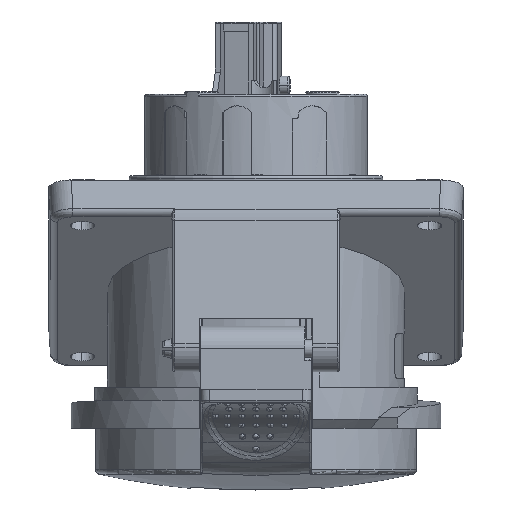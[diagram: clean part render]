
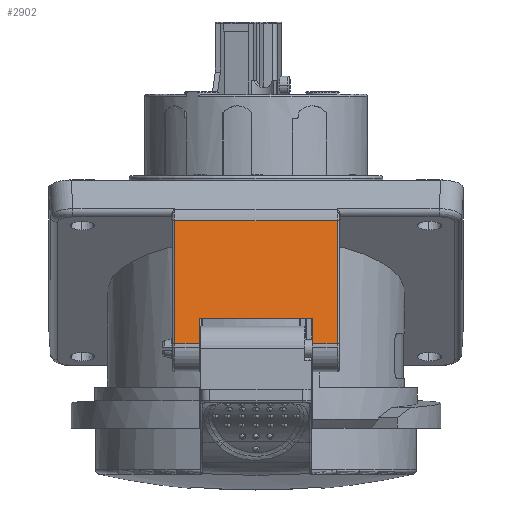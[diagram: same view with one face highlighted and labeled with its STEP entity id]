
A CAD part, front view. The second image highlights one B-rep face of the part: STEP entity #2902.
In plain terms, the highlighted planar face has unit normal (0, -0.991, 0.131).
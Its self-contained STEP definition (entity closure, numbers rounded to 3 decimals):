
#382 = VERTEX_POINT ( 'NONE', #36819 ) ;
#985 = VERTEX_POINT ( 'NONE', #14050 ) ;
#1243 = DIRECTION ( 'NONE',  ( 0., -0.131, -0.991 ) ) ;
#2452 = EDGE_CURVE ( 'NONE', #20216, #35127, #22411, .T. ) ;
#2902 = ADVANCED_FACE ( 'NONE', ( #27150 ), #14303, .T. ) ;
#3723 = LINE ( 'NONE', #48132, #47861 ) ;
#3793 = CARTESIAN_POINT ( 'NONE',  ( 214., 552.485, -12.255 ) ) ;
#4428 = LINE ( 'NONE', #45349, #46788 ) ;
#5514 = DIRECTION ( 'NONE',  ( 0., -0.991, 0.131 ) ) ;
#6163 = CARTESIAN_POINT ( 'NONE',  ( 209.19, 553.235, -6.583 ) ) ;
#6254 = VERTEX_POINT ( 'NONE', #19997 ) ;
#7869 = ORIENTED_EDGE ( 'NONE', *, *, #51815, .F. ) ;
#8626 = DIRECTION ( 'NONE',  ( 0., 0.131, 0.991 ) ) ;
#9840 = CARTESIAN_POINT ( 'NONE',  ( 178., 556.27, 16.37 ) ) ;
#9986 = CARTESIAN_POINT ( 'NONE',  ( 11., 552.485, -12.255 ) ) ;
#10367 = CARTESIAN_POINT ( 'NONE',  ( 178., 556.1, 15.087 ) ) ;
#12274 = VERTEX_POINT ( 'NONE', #52512 ) ;
#12533 = ORIENTED_EDGE ( 'NONE', *, *, #29301, .T. ) ;
#14050 = CARTESIAN_POINT ( 'NONE',  ( 183.4, 552.485, -12.255 ) ) ;
#14303 = PLANE ( 'NONE',  #39243 ) ;
#15746 = VERTEX_POINT ( 'NONE', #45285 ) ;
#16739 = EDGE_CURVE ( 'NONE', #35127, #985, #3723, .T. ) ;
#19818 = EDGE_CURVE ( 'NONE', #15746, #12274, #26485, .T. ) ;
#19997 = CARTESIAN_POINT ( 'NONE',  ( 214., 556.1, 15.087 ) ) ;
#20176 = ORIENTED_EDGE ( 'NONE', *, *, #19818, .F. ) ;
#20216 = VERTEX_POINT ( 'NONE', #10367 ) ;
#21171 = CARTESIAN_POINT ( 'NONE',  ( 214., 556.27, 16.37 ) ) ;
#22411 = LINE ( 'NONE', #9840, #25796 ) ;
#23361 = ORIENTED_EDGE ( 'NONE', *, *, #45655, .F. ) ;
#25576 = LINE ( 'NONE', #29580, #46419 ) ;
#25796 = VECTOR ( 'NONE', #30433, 1000. ) ;
#26485 = LINE ( 'NONE', #6163, #28110 ) ;
#26545 = EDGE_LOOP ( 'NONE', ( #12533, #41961, #50909, #7869, #20176, #23361, #38744, #27555 ) ) ;
#27150 = FACE_OUTER_BOUND ( 'NONE', #26545, .T. ) ;
#27272 = DIRECTION ( 'NONE',  ( -1., 0., 0. ) ) ;
#27555 = ORIENTED_EDGE ( 'NONE', *, *, #41237, .T. ) ;
#28110 = VECTOR ( 'NONE', #27272, 1000. ) ;
#28480 = VECTOR ( 'NONE', #46397, 1000. ) ;
#28949 = LINE ( 'NONE', #21171, #47939 ) ;
#29301 = EDGE_CURVE ( 'NONE', #6254, #20216, #4428, .T. ) ;
#29580 = CARTESIAN_POINT ( 'NONE',  ( 183.4, 556.27, 16.37 ) ) ;
#30433 = DIRECTION ( 'NONE',  ( 0., -0.131, -0.991 ) ) ;
#30684 = CARTESIAN_POINT ( 'NONE',  ( 178., 552.485, -12.255 ) ) ;
#33673 = LINE ( 'NONE', #45476, #52419 ) ;
#34643 = DIRECTION ( 'NONE',  ( -1., 0., 0. ) ) ;
#35127 = VERTEX_POINT ( 'NONE', #30684 ) ;
#36819 = CARTESIAN_POINT ( 'NONE',  ( 208.6, 552.485, -12.255 ) ) ;
#38353 = LINE ( 'NONE', #9986, #28480 ) ;
#38744 = ORIENTED_EDGE ( 'NONE', *, *, #47784, .T. ) ;
#39243 = AXIS2_PLACEMENT_3D ( 'NONE', #47226, #5514, #34643 ) ;
#41237 = EDGE_CURVE ( 'NONE', #43604, #6254, #28949, .T. ) ;
#41331 = DIRECTION ( 'NONE',  ( -1., 0., 0. ) ) ;
#41961 = ORIENTED_EDGE ( 'NONE', *, *, #2452, .T. ) ;
#43604 = VERTEX_POINT ( 'NONE', #3793 ) ;
#44938 = DIRECTION ( 'NONE',  ( 0., 0.131, 0.991 ) ) ;
#45285 = CARTESIAN_POINT ( 'NONE',  ( 208.6, 553.235, -6.583 ) ) ;
#45349 = CARTESIAN_POINT ( 'NONE',  ( 11., 556.1, 15.087 ) ) ;
#45476 = CARTESIAN_POINT ( 'NONE',  ( 208.6, 556.27, 16.37 ) ) ;
#45655 = EDGE_CURVE ( 'NONE', #382, #15746, #33673, .T. ) ;
#46397 = DIRECTION ( 'NONE',  ( 1., 0., 0. ) ) ;
#46419 = VECTOR ( 'NONE', #1243, 1000. ) ;
#46788 = VECTOR ( 'NONE', #41331, 1000. ) ;
#47226 = CARTESIAN_POINT ( 'NONE',  ( 11., 556.27, 16.37 ) ) ;
#47784 = EDGE_CURVE ( 'NONE', #382, #43604, #38353, .T. ) ;
#47861 = VECTOR ( 'NONE', #52912, 1000. ) ;
#47939 = VECTOR ( 'NONE', #8626, 1000. ) ;
#48132 = CARTESIAN_POINT ( 'NONE',  ( 11., 552.485, -12.255 ) ) ;
#50909 = ORIENTED_EDGE ( 'NONE', *, *, #16739, .T. ) ;
#51815 = EDGE_CURVE ( 'NONE', #12274, #985, #25576, .T. ) ;
#52419 = VECTOR ( 'NONE', #44938, 1000. ) ;
#52512 = CARTESIAN_POINT ( 'NONE',  ( 183.4, 553.235, -6.583 ) ) ;
#52912 = DIRECTION ( 'NONE',  ( 1., 0., 0. ) ) ;
